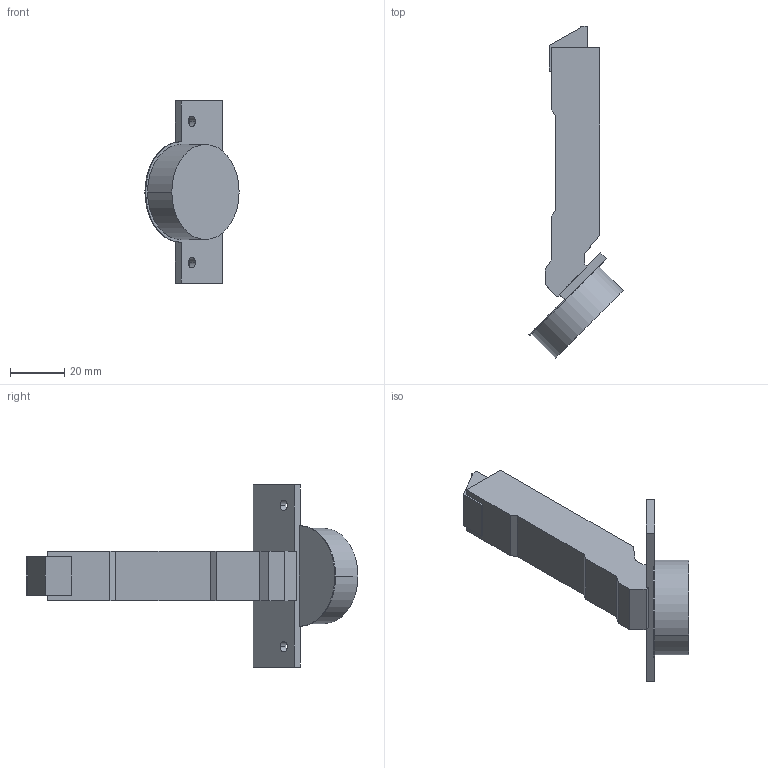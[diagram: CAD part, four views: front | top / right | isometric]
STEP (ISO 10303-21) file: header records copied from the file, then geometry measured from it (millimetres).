
FILE_DESCRIPTION (( 'STEP AP214' ), '1' );
FILE_NAME ('Scharnier T Click-on 120°_-45° H_BB, aufliegend - Neu -.step', '2019-09-17T09:44:18', ( '' ), ( '' ), 'SwSTEP 2.0', 'SolidWorks 2019', '' );
FILE_SCHEMA (( 'AUTOMOTIVE_DESIGN' ));
Length unit declared in the file: millimetre
Products named in the file (1): Scharnier T Click-on 120°_-45° H_BB, aufliegend - Neu -
Bounding box: 34.65 x 122.12 x 67 mm (x, y, z)
Volume: 43674.6 mm3; surface area: 12502.1 mm2
Topology: 1 solids, 1 shells, 50 faces, 132 edges, 88 vertices
Faces by surface type: plane 37, cylinder 13
Entity records: 1584 total; most frequent: CARTESIAN_POINT 271, ORIENTED_EDGE 264, DIRECTION 260, EDGE_CURVE 132, LINE 106, VECTOR 106, VERTEX_POINT 88, AXIS2_PLACEMENT_3D 77
